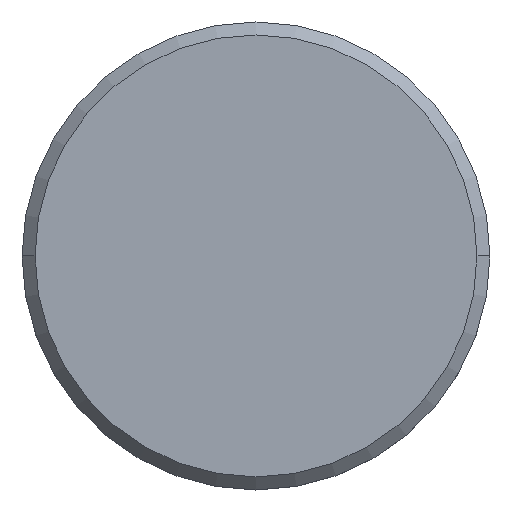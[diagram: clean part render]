
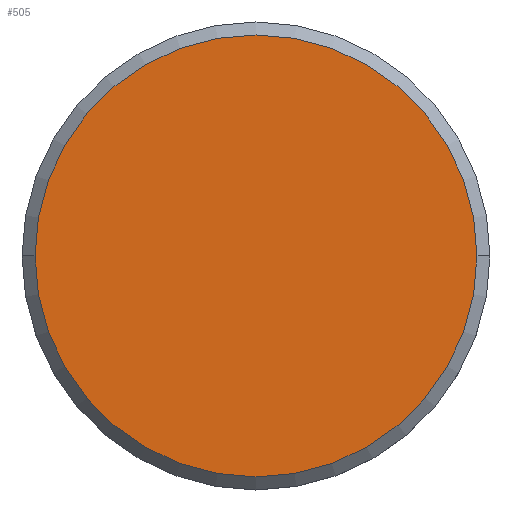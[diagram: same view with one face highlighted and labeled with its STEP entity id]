
A CAD part, top view. The second image highlights one B-rep face of the part: STEP entity #505.
In plain terms, the highlighted planar face has unit normal (0, 0, 1).
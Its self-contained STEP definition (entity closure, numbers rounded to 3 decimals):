
#3 = CARTESIAN_POINT ( 'NONE',  ( 0., 0., 0. ) ) ;
#31 = DIRECTION ( 'NONE',  ( -1., 0., 0. ) ) ;
#85 = VERTEX_POINT ( 'NONE', #502 ) ;
#161 = DIRECTION ( 'NONE',  ( -1., 0., 0. ) ) ;
#173 = AXIS2_PLACEMENT_3D ( 'NONE', #288, #219, #31 ) ;
#209 = DIRECTION ( 'NONE',  ( 0., 0., 1. ) ) ;
#212 = EDGE_CURVE ( 'NONE', #85, #365, #394, .T. ) ;
#219 = DIRECTION ( 'NONE',  ( 0., 0., -1. ) ) ;
#248 = FACE_OUTER_BOUND ( 'NONE', #320, .T. ) ;
#259 = ORIENTED_EDGE ( 'NONE', *, *, #212, .T. ) ;
#273 = DIRECTION ( 'NONE',  ( 0., 0., 1. ) ) ;
#288 = CARTESIAN_POINT ( 'NONE',  ( 0., 0., 0. ) ) ;
#290 = CARTESIAN_POINT ( 'NONE',  ( 17., 0., 0. ) ) ;
#320 = EDGE_LOOP ( 'NONE', ( #259, #452 ) ) ;
#365 = VERTEX_POINT ( 'NONE', #290 ) ;
#394 = CIRCLE ( 'NONE', #405, 17. ) ;
#405 = AXIS2_PLACEMENT_3D ( 'NONE', #3, #273, #535 ) ;
#427 = CARTESIAN_POINT ( 'NONE',  ( 0., 0., 0. ) ) ;
#436 = EDGE_CURVE ( 'NONE', #365, #85, #475, .T. ) ;
#452 = ORIENTED_EDGE ( 'NONE', *, *, #436, .T. ) ;
#475 = CIRCLE ( 'NONE', #476, 17. ) ;
#476 = AXIS2_PLACEMENT_3D ( 'NONE', #427, #209, #161 ) ;
#490 = PLANE ( 'NONE',  #173 ) ;
#502 = CARTESIAN_POINT ( 'NONE',  ( -17., 0., 0. ) ) ;
#505 = ADVANCED_FACE ( 'NONE', ( #248 ), #490, .F. ) ;
#535 = DIRECTION ( 'NONE',  ( -1., 0., 0. ) ) ;
